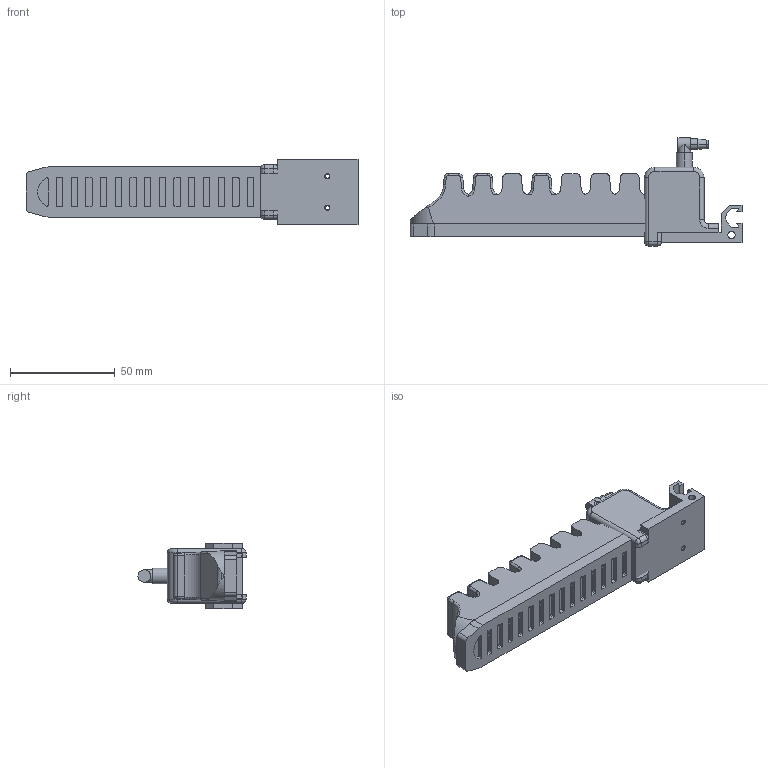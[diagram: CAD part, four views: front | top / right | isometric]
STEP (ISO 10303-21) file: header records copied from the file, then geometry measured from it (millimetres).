
FILE_DESCRIPTION (( 'STEP AP214' ), '1' );
FILE_NAME ('GFM-A8V5.STEP', '2019-12-04T02:53:42', ( '微软用户' ), ( '微软中国' ), 'SwSTEP 2.0', 'SolidWorks 2016', '' );
FILE_SCHEMA (( 'AUTOMOTIVE_DESIGN' ));
Length unit declared in the file: millimetre
Products named in the file (1): GFM-A8V5
Bounding box: 158.21 x 51.5 x 31 mm (x, y, z)
Volume: 95886.9 mm3; surface area: 31427.6 mm2
Topology: 4 solids, 4 shells, 390 faces, 999 edges, 634 vertices
Faces by surface type: cylinder 177, plane 165, bspline 24, cone 14, torus 6, sphere 4
Entity records: 17784 total; most frequent: CARTESIAN_POINT 4117, ORIENTED_EDGE 1998, DIRECTION 1907, EDGE_CURVE 999, AXIS2_PLACEMENT_3D 666, VERTEX_POINT 634, VECTOR 575, LINE 575
